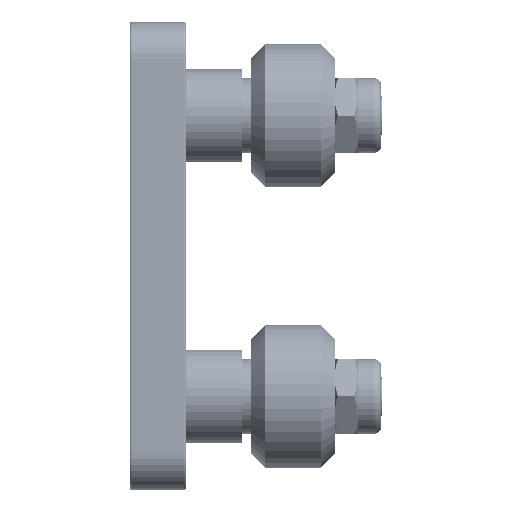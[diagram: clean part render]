
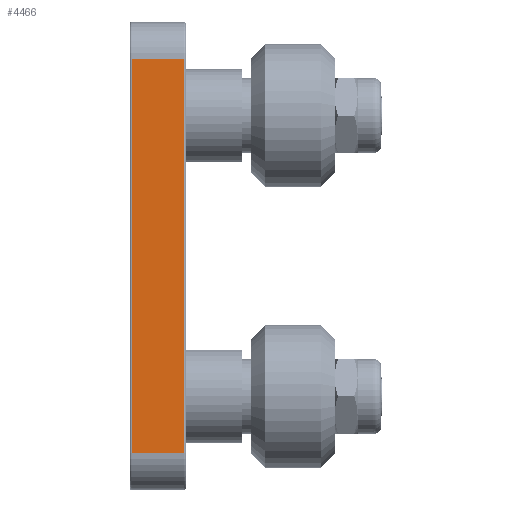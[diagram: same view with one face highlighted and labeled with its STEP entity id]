
A CAD part, left-side view. The second image highlights one B-rep face of the part: STEP entity #4466.
In plain terms, the highlighted planar face has unit normal (-1, 0, 0).
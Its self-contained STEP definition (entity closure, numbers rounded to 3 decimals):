
#2017 = FACE_OUTER_BOUND ( 'NONE', #14164, .T. ) ;
#2210 = DIRECTION ( 'NONE',  ( 0., -1., 0. ) ) ;
#4466 = ADVANCED_FACE ( 'NONE', ( #2017 ), #18176, .F. ) ;
#4842 = VECTOR ( 'NONE', #37661, 1000. ) ;
#5742 = VERTEX_POINT ( 'NONE', #49588 ) ;
#10032 = EDGE_CURVE ( 'NONE', #5742, #10455, #44258, .T. ) ;
#10455 = VERTEX_POINT ( 'NONE', #20643 ) ;
#10549 = LINE ( 'NONE', #29513, #32956 ) ;
#12426 = ORIENTED_EDGE ( 'NONE', *, *, #27530, .T. ) ;
#14164 = EDGE_LOOP ( 'NONE', ( #12426, #43039, #30858, #17736 ) ) ;
#16196 = EDGE_CURVE ( 'NONE', #40806, #34257, #27731, .T. ) ;
#16418 = VECTOR ( 'NONE', #2210, 1000. ) ;
#17736 = ORIENTED_EDGE ( 'NONE', *, *, #10032, .T. ) ;
#18176 = PLANE ( 'NONE',  #44179 ) ;
#20643 = CARTESIAN_POINT ( 'NONE',  ( -25., 5.8, -21. ) ) ;
#22133 = VECTOR ( 'NONE', #46591, 1000. ) ;
#22348 = EDGE_CURVE ( 'NONE', #5742, #34257, #48839, .T. ) ;
#25139 = CARTESIAN_POINT ( 'NONE',  ( -25., 5.8, -21. ) ) ;
#25634 = CARTESIAN_POINT ( 'NONE',  ( -25., 0.2, -21. ) ) ;
#27530 = EDGE_CURVE ( 'NONE', #10455, #40806, #10549, .T. ) ;
#27731 = LINE ( 'NONE', #43099, #22133 ) ;
#28570 = CARTESIAN_POINT ( 'NONE',  ( -25., 6., -21. ) ) ;
#29513 = CARTESIAN_POINT ( 'NONE',  ( -25., 6., -21. ) ) ;
#29732 = CARTESIAN_POINT ( 'NONE',  ( -25., 6., 21. ) ) ;
#30858 = ORIENTED_EDGE ( 'NONE', *, *, #22348, .F. ) ;
#32956 = VECTOR ( 'NONE', #37072, 1000. ) ;
#34257 = VERTEX_POINT ( 'NONE', #37156 ) ;
#37072 = DIRECTION ( 'NONE',  ( 0., -1., 0. ) ) ;
#37156 = CARTESIAN_POINT ( 'NONE',  ( -25., 0.2, 21. ) ) ;
#37661 = DIRECTION ( 'NONE',  ( 0., 0., -1. ) ) ;
#40634 = DIRECTION ( 'NONE',  ( 1., 0., 0. ) ) ;
#40806 = VERTEX_POINT ( 'NONE', #25634 ) ;
#43039 = ORIENTED_EDGE ( 'NONE', *, *, #16196, .T. ) ;
#43099 = CARTESIAN_POINT ( 'NONE',  ( -25., 0.2, -21. ) ) ;
#44179 = AXIS2_PLACEMENT_3D ( 'NONE', #28570, #40634, #44918 ) ;
#44258 = LINE ( 'NONE', #25139, #4842 ) ;
#44918 = DIRECTION ( 'NONE',  ( 0., 0., -1. ) ) ;
#46591 = DIRECTION ( 'NONE',  ( 0., 0., 1. ) ) ;
#48839 = LINE ( 'NONE', #29732, #16418 ) ;
#49588 = CARTESIAN_POINT ( 'NONE',  ( -25., 5.8, 21. ) ) ;
